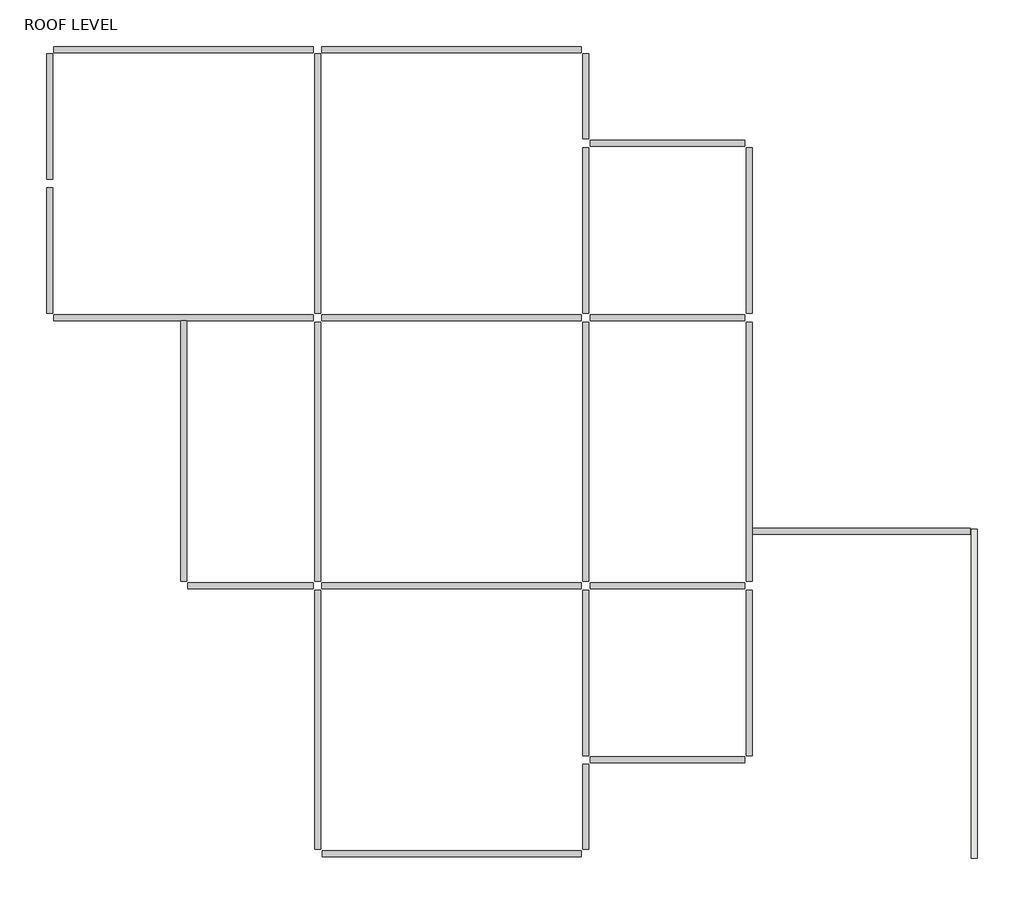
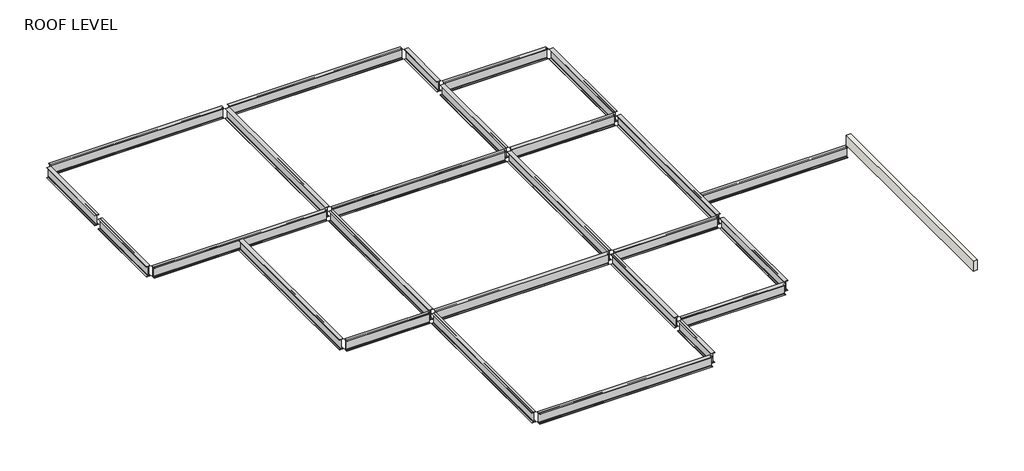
# One storey: 26 beams, 1 wall.
"""IFC4 building model written with IfcOpenShell, lengths in millimetres."""

from ifc_helpers import new_model, si_unit, point, frame, frame_2d, origin, place, context, project, spatial, polyline, circle_curve, trimmed, segment, composite_curve, outline, extrude, transform, mapped, element, save
from components import w_wide_flange_w24x68_288c4e1d, w_wide_flange_w24x68_f1038f88, w_wide_flange_w24x68_9aefc99e, w_wide_flange_w24x68_ad03e389, w_wide_flange_w24x68_ff5f66c1, w_wide_flange_w24x68_64a19b5f, w_wide_flange_w24x68_3a27caef, w_wide_flange_w24x68_d201753e, w_wide_flange_w24x68_4ed4cbdf, w_wide_flange_w24x68_a18b2e65, w_wide_flange_w24x68_7e912eba

model = new_model("IFC4")

# Units and contexts
model_context = context("Model", 3, world=origin())
ifc_project = project(units=[si_unit("LENGTHUNIT", "METRE", prefix="MILLI")], contexts=[model_context])

# Site, building, storey
site = spatial("IfcSite", under=ifc_project)
building = spatial("IfcBuilding", under=site)
storey = spatial("IfcBuildingStorey", under=building, Name="ROOF LEVEL", Elevation=16459.2)

# Beams
placement = place(None, origin())
element("IfcBeam", 1, ObjectType="W-Wide Flange : W24X68", at=placement, inside=storey, context=model_context, shape_type="SweptSolid", body=[
    extrude(outline(composite_curve([segment(polyline([(4131.6776318, 15872.079), (4131.6776318, 15857.22), (3903.8396318, 15857.22), (3903.8396318, 15872.079), (3989.2471318, 15872.079)]), True, "CONTINUOUS"), segment(trimmed(circle_curve(frame_2d((3989.2471318, 15895.32)), 23.241), [point((3989.2471318, 15872.079))], [point((4012.4881318, 15895.32))], True, "CARTESIAN"), True, "CONTINUOUS"), segment(polyline([(4012.4881318, 15895.32), (4012.4881318, 16421.1)]), True, "CONTINUOUS"), segment(trimmed(circle_curve(frame_2d((3989.2471318, 16421.1)), 23.241), [point((4012.4881318, 16421.1))], [point((3989.2471318, 16444.341))], True, "CARTESIAN"), True, "CONTINUOUS"), segment(polyline([(3989.2471318, 16444.341), (3903.8396318, 16444.341), (3903.8396318, 16459.2), (4131.6776318, 16459.2), (4131.6776318, 16444.341), (4046.2701318, 16444.341)]), True, "CONTINUOUS"), segment(trimmed(circle_curve(frame_2d((4046.2701318, 16421.1)), 23.241), [point((4046.2701318, 16444.341))], [point((4023.0291318, 16421.1))], True, "CARTESIAN"), True, "CONTINUOUS"), segment(polyline([(4023.0291318, 16421.1), (4023.0291318, 15895.32)]), True, "CONTINUOUS"), segment(trimmed(circle_curve(frame_2d((4046.2701318, 15895.32)), 23.241), [point((4023.0291318, 15895.32))], [point((4046.2701318, 15872.079))], True, "CARTESIAN"), True, "CONTINUOUS"), segment(polyline([(4046.2701318, 15872.079), (4131.6776318, 15872.079)]), True, "CONTINUOUS")], self_intersect=False)), frame((-18657.9492735, 0.0, 0.0), z_axis=(1.0, 0.0, 0.0), x_axis=(0.0, 1.0, 0.0)), (0.0, 0.0, 1.0), 9829.8),
])
w_wide_flange_w24x68_shape = w_wide_flange_w24x68_288c4e1d(model_context)
element("IfcBeam", 2, ObjectType="W-Wide Flange : W24X68", at=placement, inside=storey, context=model_context, shape_type="MappedRepresentation", body=[
    mapped(w_wide_flange_w24x68_shape, transform((-18823.0492735, 11637.7586318, 16158.21), x_axis=(0.0, -1.0, 0.0), y_axis=(1.0, 0.0, 0.0), z_axis=(0.0, 0.0, 1.0))),
])
w_wide_flange_w24x68_2_shape = w_wide_flange_w24x68_f1038f88(model_context)
element("IfcBeam", 3, ObjectType="W-Wide Flange : W24X68", at=placement, inside=storey, context=model_context, shape_type="MappedRepresentation", body=[
    mapped(w_wide_flange_w24x68_2_shape, transform((-13743.0492735, 14177.7586318, 16158.21), x_axis=(1.0, 0.0, 0.0), y_axis=(0.0, 1.0, 0.0), z_axis=(0.0, 0.0, 1.0))),
])
element("IfcBeam", 4, ObjectType="W-Wide Flange : W24X68", at=placement, inside=storey, context=model_context, shape_type="MappedRepresentation", body=[
    mapped(w_wide_flange_w24x68_2_shape, transform((-3583.0492735, 14177.7586318, 16158.21), x_axis=(-1.0, 0.0, 0.0), y_axis=(0.0, -1.0, 0.0), z_axis=(0.0, 0.0, 1.0))),
])
element("IfcBeam", 5, ObjectType="W-Wide Flange : W24X68", at=placement, inside=storey, context=model_context, shape_type="MappedRepresentation", body=[
    mapped(w_wide_flange_w24x68_2_shape, transform((-3583.0492735, -6142.2413682, 16158.21), x_axis=(1.0, 0.0, 0.0), y_axis=(0.0, 1.0, 0.0), z_axis=(0.0, 0.0, 1.0))),
])
element("IfcBeam", 6, ObjectType="W-Wide Flange : W24X68", at=placement, inside=storey, context=model_context, shape_type="MappedRepresentation", body=[
    mapped(w_wide_flange_w24x68_2_shape, transform((-3583.0492735, 4017.7586318, 16158.21), x_axis=(1.0, 0.0, 0.0), y_axis=(0.0, 1.0, 0.0), z_axis=(0.0, 0.0, 1.0))),
])
w_wide_flange_w24x68_3_shape = w_wide_flange_w24x68_9aefc99e(model_context)
element("IfcBeam", 7, ObjectType="W-Wide Flange : W24X68", at=placement, inside=storey, context=model_context, shape_type="MappedRepresentation", body=[
    mapped(w_wide_flange_w24x68_3_shape, transform((-18823.0492735, 6557.7586318, 16158.21), x_axis=(0.0, 1.0, 0.0), y_axis=(-1.0, 0.0, 0.0), z_axis=(0.0, 0.0, 1.0))),
])
w_wide_flange_w24x68_4_shape = w_wide_flange_w24x68_ad03e389(model_context)
element("IfcBeam", 8, ObjectType="W-Wide Flange : W24X68", at=placement, inside=storey, context=model_context, shape_type="MappedRepresentation", body=[
    mapped(w_wide_flange_w24x68_4_shape, transform((-8663.0492735, -1062.2413682, 16158.21), x_axis=(0.0, -1.0, 0.0), y_axis=(1.0, 0.0, 0.0), z_axis=(0.0, 0.0, 1.0))),
])
element("IfcBeam", 9, ObjectType="W-Wide Flange : W24X68", at=placement, inside=storey, context=model_context, shape_type="MappedRepresentation", body=[
    mapped(w_wide_flange_w24x68_4_shape, transform((7694.5507265, -1062.2413682, 16158.21), x_axis=(0.0, 1.0, 0.0), y_axis=(-1.0, 0.0, 0.0), z_axis=(0.0, 0.0, 1.0))),
])
element("IfcBeam", 10, ObjectType="W-Wide Flange : W24X68", at=placement, inside=storey, context=model_context, shape_type="MappedRepresentation", body=[
    mapped(w_wide_flange_w24x68_4_shape, transform((1496.9507265, -1062.2413682, 16158.21), x_axis=(0.0, 1.0, 0.0), y_axis=(-1.0, 0.0, 0.0), z_axis=(0.0, 0.0, 1.0))),
])
element("IfcBeam", 11, ObjectType="W-Wide Flange : W24X68", at=placement, inside=storey, context=model_context, shape_type="MappedRepresentation", body=[
    mapped(w_wide_flange_w24x68_4_shape, transform((-8663.0492735, 9097.7586318, 16158.21), x_axis=(0.0, 1.0, 0.0), y_axis=(-1.0, 0.0, 0.0), z_axis=(0.0, 0.0, 1.0))),
])
w_wide_flange_w24x68_5_shape = w_wide_flange_w24x68_ff5f66c1(model_context)
element("IfcBeam", 12, ObjectType="W-Wide Flange : W24X68", at=placement, inside=storey, context=model_context, shape_type="MappedRepresentation", body=[
    mapped(w_wide_flange_w24x68_5_shape, transform((-11203.0492735, -6142.2413682, 16158.21), x_axis=(1.0, 0.0, 0.0), y_axis=(0.0, 1.0, 0.0), z_axis=(0.0, 0.0, 1.0))),
])
w_wide_flange_w24x68_6_shape = w_wide_flange_w24x68_64a19b5f(model_context)
element("IfcBeam", 13, ObjectType="W-Wide Flange : W24X68", at=placement, inside=storey, context=model_context, shape_type="MappedRepresentation", body=[
    mapped(w_wide_flange_w24x68_6_shape, transform((-8663.0492735, -11222.2413682, 16158.21), x_axis=(0.0, -1.0, 0.0), y_axis=(1.0, 0.0, 0.0), z_axis=(0.0, 0.0, 1.0))),
])
element("IfcBeam", 14, ObjectType="W-Wide Flange : W24X68", at=placement, inside=storey, context=model_context, shape_type="MappedRepresentation", body=[
    mapped(w_wide_flange_w24x68_6_shape, transform((-3583.0492735, -16302.2413682, 16158.21), x_axis=(1.0, 0.0, 0.0), y_axis=(0.0, 1.0, 0.0), z_axis=(0.0, 0.0, 1.0))),
])
w_wide_flange_w24x68_7_shape = w_wide_flange_w24x68_3a27caef(model_context)
element("IfcBeam", 15, ObjectType="W-Wide Flange : W24X68", at=placement, inside=storey, context=model_context, shape_type="MappedRepresentation", body=[
    mapped(w_wide_flange_w24x68_7_shape, transform((1496.9507265, -14524.2413682, 16158.21), x_axis=(0.0, 1.0, 0.0), y_axis=(-1.0, 0.0, 0.0), z_axis=(0.0, 0.0, 1.0))),
])
element("IfcBeam", 16, ObjectType="W-Wide Flange : W24X68", at=placement, inside=storey, context=model_context, shape_type="MappedRepresentation", body=[
    mapped(w_wide_flange_w24x68_7_shape, transform((1496.9507265, 12399.7586318, 16158.21), x_axis=(0.0, -1.0, 0.0), y_axis=(1.0, 0.0, 0.0), z_axis=(0.0, 0.0, 1.0))),
])
w_wide_flange_w24x68_8_shape = w_wide_flange_w24x68_d201753e(model_context)
element("IfcBeam", 17, ObjectType="W-Wide Flange : W24X68", at=placement, inside=storey, context=model_context, shape_type="MappedRepresentation", body=[
    mapped(w_wide_flange_w24x68_8_shape, transform((4595.7507265, -12746.2413682, 16158.21), x_axis=(-1.0, 0.0, 0.0), y_axis=(0.0, -1.0, 0.0), z_axis=(0.0, 0.0, 1.0))),
])
element("IfcBeam", 18, ObjectType="W-Wide Flange : W24X68", at=placement, inside=storey, context=model_context, shape_type="MappedRepresentation", body=[
    mapped(w_wide_flange_w24x68_8_shape, transform((4595.7507265, -6142.2413682, 16158.21), x_axis=(1.0, 0.0, 0.0), y_axis=(0.0, 1.0, 0.0), z_axis=(0.0, 0.0, 1.0))),
])
element("IfcBeam", 19, ObjectType="W-Wide Flange : W24X68", at=placement, inside=storey, context=model_context, shape_type="MappedRepresentation", body=[
    mapped(w_wide_flange_w24x68_8_shape, transform((4595.7507265, 4017.7586318, 16158.21), x_axis=(-1.0, 0.0, 0.0), y_axis=(0.0, -1.0, 0.0), z_axis=(0.0, 0.0, 1.0))),
])
element("IfcBeam", 20, ObjectType="W-Wide Flange : W24X68", at=placement, inside=storey, context=model_context, shape_type="MappedRepresentation", body=[
    mapped(w_wide_flange_w24x68_8_shape, transform((4595.7507265, 10621.7586318, 16158.21), x_axis=(1.0, 0.0, 0.0), y_axis=(0.0, 1.0, 0.0), z_axis=(0.0, 0.0, 1.0))),
])
w_wide_flange_w24x68_9_shape = w_wide_flange_w24x68_4ed4cbdf(model_context)
element("IfcBeam", 21, ObjectType="W-Wide Flange : W24X68", at=placement, inside=storey, context=model_context, shape_type="MappedRepresentation", body=[
    mapped(w_wide_flange_w24x68_9_shape, transform((7694.5507265, -9444.2413682, 16158.21), x_axis=(0.0, -1.0, 0.0), y_axis=(1.0, 0.0, 0.0), z_axis=(0.0, 0.0, 1.0))),
])
element("IfcBeam", 22, ObjectType="W-Wide Flange : W24X68", at=placement, inside=storey, context=model_context, shape_type="MappedRepresentation", body=[
    mapped(w_wide_flange_w24x68_9_shape, transform((1496.9507265, 7319.7586318, 16158.21), x_axis=(0.0, 1.0, 0.0), y_axis=(-1.0, 0.0, 0.0), z_axis=(0.0, 0.0, 1.0))),
])
element("IfcBeam", 23, ObjectType="W-Wide Flange : W24X68", at=placement, inside=storey, context=model_context, shape_type="MappedRepresentation", body=[
    mapped(w_wide_flange_w24x68_9_shape, transform((7694.5507265, 7319.7586318, 16158.21), x_axis=(0.0, 1.0, 0.0), y_axis=(-1.0, 0.0, 0.0), z_axis=(0.0, 0.0, 1.0))),
])
element("IfcBeam", 24, ObjectType="W-Wide Flange : W24X68", at=placement, inside=storey, context=model_context, shape_type="MappedRepresentation", body=[
    mapped(w_wide_flange_w24x68_9_shape, transform((1496.9507265, -9444.2413682, 16158.21), x_axis=(0.0, 1.0, 0.0), y_axis=(-1.0, 0.0, 0.0), z_axis=(0.0, 0.0, 1.0))),
])
w_wide_flange_w24x68_10_shape = w_wide_flange_w24x68_a18b2e65(model_context)
element("IfcBeam", 25, ObjectType="W-Wide Flange : W24X68", at=placement, inside=storey, context=model_context, shape_type="MappedRepresentation", body=[
    mapped(w_wide_flange_w24x68_10_shape, transform((-13743.0492735, -1062.2413682, 16158.21), x_axis=(0.0, 1.0, 0.0), y_axis=(-1.0, 0.0, 0.0), z_axis=(0.0, 0.0, 1.0))),
])
w_wide_flange_w24x68_11_shape = w_wide_flange_w24x68_7e912eba(model_context)
element("IfcBeam", 26, ObjectType="W-Wide Flange : W24X68", at=placement, inside=storey, context=model_context, shape_type="MappedRepresentation", body=[
    mapped(w_wide_flange_w24x68_11_shape, transform((11885.5507265, -4083.2538682, 16158.21), x_axis=(-1.0, 0.0, 0.0), y_axis=(0.0, -1.0, 0.0), z_axis=(0.0, 0.0, 1.0))),
])

# Wall
element("IfcWall", 27, ObjectType="CMU_10\" - BIM-M", at=placement, inside=storey, context=model_context, shape_type="SweptSolid", body=[
    extrude(outline(polyline([(16346.2220917, -3999.1163682), (16346.2220917, -16476.8663682), (16101.7470917, -16476.8663682), (16101.7470917, -3999.1163682), (16346.2220917, -3999.1163682)])), frame((0.0, 0.0, 16459.2), z_axis=(0.0, 0.0, 1.0), x_axis=(1.0, 0.0, 0.0)), (0.0, 0.0, 1.0), 609.6),
])

save(model, "model.ifc")
